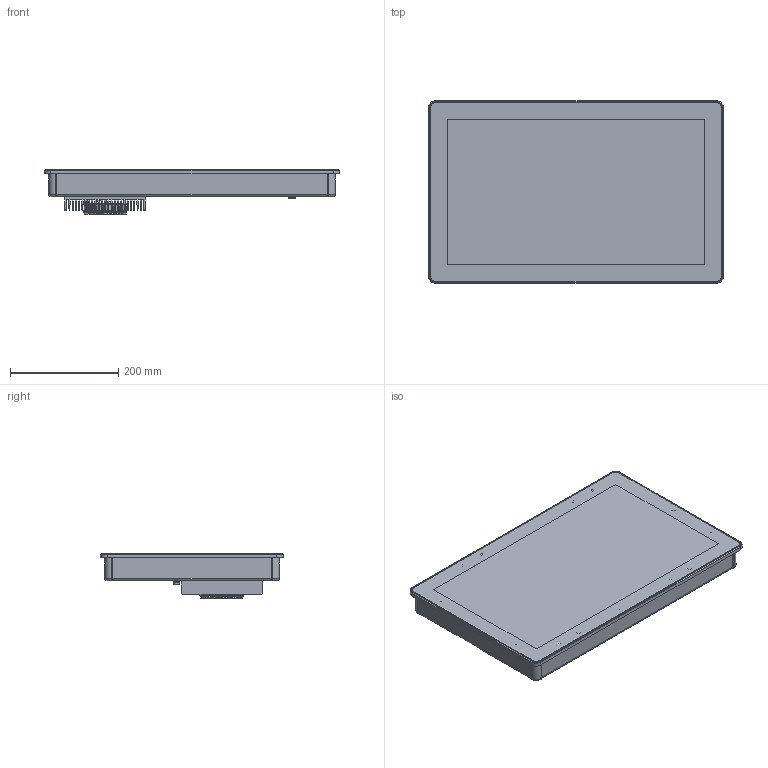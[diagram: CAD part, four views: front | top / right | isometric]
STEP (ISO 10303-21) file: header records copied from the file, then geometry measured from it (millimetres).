
FILE_DESCRIPTION(/* description */ (''),/* implementation_level */ '2;1');
FILE_NAME(/* name */ 'C:\SAPInventorWork\778-41952-00_EXTERN.stp',/* time_stamp */ '2025-01-30T08:56:14+01:00',/* author */ ('Aiple'),/* organization */ (''),/* preprocessor_version */ 'ST-DEVELOPER v18.1',/* originating_system */ 'Autodesk Inventor 2021',/* authorisation */ '');
FILE_SCHEMA (('AUTOMOTIVE_DESIGN { 1 0 10303 214 3 1 1 }'));
Products named in the file (1): 778-41952-00
Bounding box: 545.5 x 337 x 83.3 mm (x, y, z)
Volume: 8081390.4 mm3; surface area: 654032.9 mm2
Topology: 9 solids, 134 shells, 8456 faces, 24434 edges, 16210 vertices
Faces by surface type: plane 5094, cylinder 2020, bspline 870, cone 366, torus 76, sphere 30
Full cylindrical faces by diameter (mm): 0.65 x16, 0.95 x32, 1.2 x27, 2.156 x2, 2.459 x18, 2.5 x2, 2.8 x6, 2.9 x2, 2.91 x4, 3 x16, 3.059 x18, 3.242 x4, 3.5 x14, 4 x8, 4.22 x8, 4.242 x1, 4.3 x12, 4.7 x2, 4.917 x4, 5 x3, 5.2 x1, 5.3 x2, 5.54 x8, 5.7 x15, 6.85 x3, 7 x4, 7.06 x1, 8.107 x4, 8.4 x14, 8.72 x4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
Entity records: 308052 total; most frequent: CARTESIAN_POINT 81286, ORIENTED_EDGE 47406, DIRECTION 41276, EDGE_CURVE 24442, LINE 16736, VECTOR 16736, VERTEX_POINT 16242, AXIS2_PLACEMENT_3D 12270
